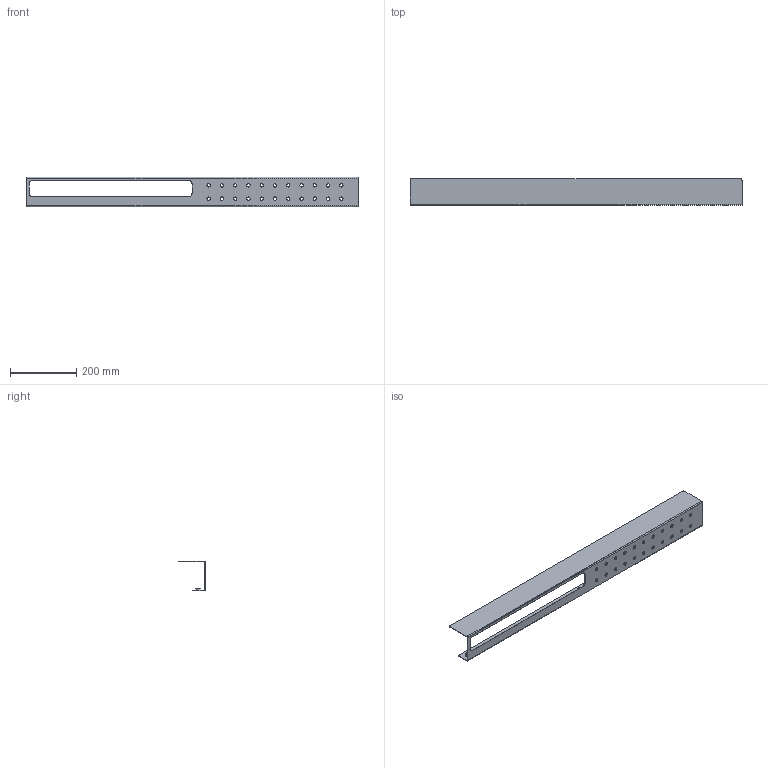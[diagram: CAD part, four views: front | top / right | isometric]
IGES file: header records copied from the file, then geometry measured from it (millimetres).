
Global section: file name: Półka łazienkowa LAVANDA L - Lewa,22; native system: HAutodesk Inventor 2018; preprocessor: unknown; author: Marcel; date: 20200214.112208; units: millimetre
Bounding box: 1000 x 80 x 90 mm (x, y, z)
Volume: 270201.1 mm3; surface area: 364729.6 mm2
Topology: 1 solids, 1 shells, 71 faces, 203 edges, 140 vertices
Faces by surface type: bspline 71
